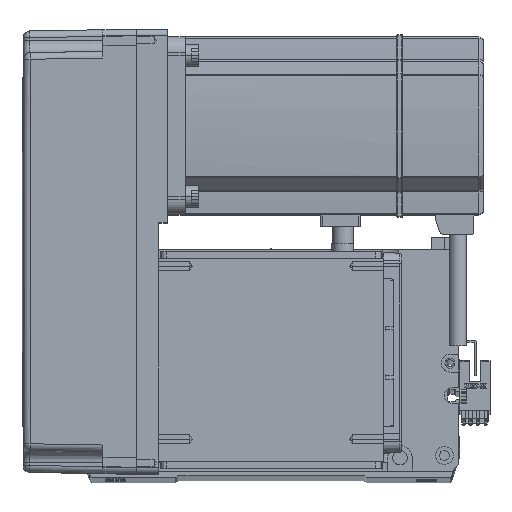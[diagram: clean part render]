
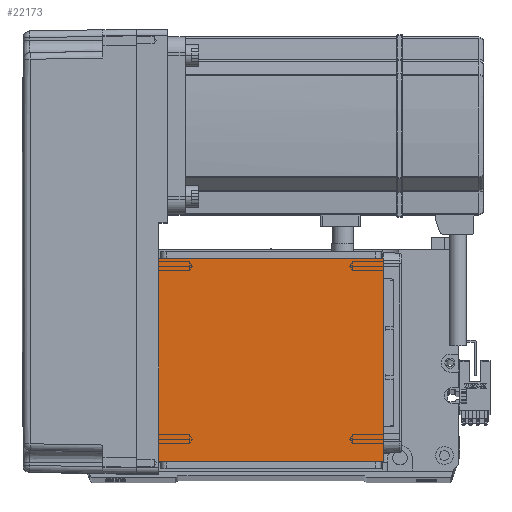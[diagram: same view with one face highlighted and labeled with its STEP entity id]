
A CAD part, top view. The second image highlights one B-rep face of the part: STEP entity #22173.
In plain terms, the highlighted planar face has unit normal (0, 0, 1).
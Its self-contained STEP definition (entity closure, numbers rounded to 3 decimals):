
#2339 = EDGE_CURVE ( 'NONE', #23844, #10667, #12535, .T. ) ;
#2923 = CARTESIAN_POINT ( 'NONE',  ( -50.5, 122., 115. ) ) ;
#5541 = CARTESIAN_POINT ( 'NONE',  ( -70.004, 111.5, 115. ) ) ;
#5616 = CARTESIAN_POINT ( 'NONE',  ( 0., 0., 115. ) ) ;
#8413 = CARTESIAN_POINT ( 'NONE',  ( -50.5, 20., 115. ) ) ;
#8760 = ORIENTED_EDGE ( 'NONE', *, *, #9560, .T. ) ;
#9239 = CARTESIAN_POINT ( 'NONE',  ( 50.5, 111.5, 115. ) ) ;
#9406 = EDGE_CURVE ( 'NONE', #56907, #10667, #24425, .T. ) ;
#9560 = EDGE_CURVE ( 'NONE', #56907, #36406, #59027, .T. ) ;
#10667 = VERTEX_POINT ( 'NONE', #9239 ) ;
#10759 = VECTOR ( 'NONE', #57265, 1000. ) ;
#12535 = LINE ( 'NONE', #45954, #41367 ) ;
#14629 = DIRECTION ( 'NONE',  ( 1., 0., 0. ) ) ;
#18351 = CARTESIAN_POINT ( 'NONE',  ( -70.004, 20., 115. ) ) ;
#22173 = ADVANCED_FACE ( 'NONE', ( #44705 ), #56937, .T. ) ;
#23844 = VERTEX_POINT ( 'NONE', #40798 ) ;
#24425 = LINE ( 'NONE', #5541, #10759 ) ;
#26821 = DIRECTION ( 'NONE',  ( -1., 0., 0. ) ) ;
#30652 = ORIENTED_EDGE ( 'NONE', *, *, #9406, .F. ) ;
#30671 = ORIENTED_EDGE ( 'NONE', *, *, #31594, .F. ) ;
#31196 = DIRECTION ( 'NONE',  ( 0., -1., 0. ) ) ;
#31594 = EDGE_CURVE ( 'NONE', #23844, #36406, #55594, .T. ) ;
#32462 = DIRECTION ( 'NONE',  ( 0., 1., 0. ) ) ;
#33272 = ORIENTED_EDGE ( 'NONE', *, *, #2339, .T. ) ;
#33534 = DIRECTION ( 'NONE',  ( 0., 0., 1. ) ) ;
#34639 = VECTOR ( 'NONE', #26821, 1000. ) ;
#36406 = VERTEX_POINT ( 'NONE', #8413 ) ;
#40798 = CARTESIAN_POINT ( 'NONE',  ( 50.5, 20., 115. ) ) ;
#41367 = VECTOR ( 'NONE', #32462, 1000. ) ;
#41595 = CARTESIAN_POINT ( 'NONE',  ( -50.5, 111.5, 115. ) ) ;
#44705 = FACE_OUTER_BOUND ( 'NONE', #56348, .T. ) ;
#45954 = CARTESIAN_POINT ( 'NONE',  ( 50.5, 122., 115. ) ) ;
#46765 = VECTOR ( 'NONE', #31196, 1000. ) ;
#50054 = AXIS2_PLACEMENT_3D ( 'NONE', #5616, #33534, #14629 ) ;
#55594 = LINE ( 'NONE', #18351, #34639 ) ;
#56348 = EDGE_LOOP ( 'NONE', ( #30652, #8760, #30671, #33272 ) ) ;
#56907 = VERTEX_POINT ( 'NONE', #41595 ) ;
#56937 = PLANE ( 'NONE',  #50054 ) ;
#57265 = DIRECTION ( 'NONE',  ( 1., 0., 0. ) ) ;
#59027 = LINE ( 'NONE', #2923, #46765 ) ;
